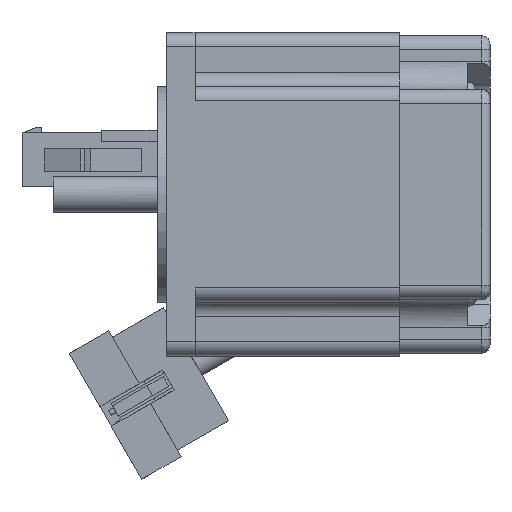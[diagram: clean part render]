
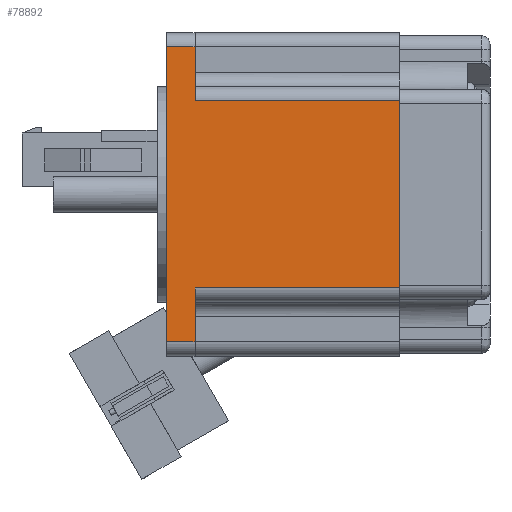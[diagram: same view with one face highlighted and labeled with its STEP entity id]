
A CAD part, front view. The second image highlights one B-rep face of the part: STEP entity #78892.
In plain terms, the highlighted planar face has unit normal (0, -1, 0).
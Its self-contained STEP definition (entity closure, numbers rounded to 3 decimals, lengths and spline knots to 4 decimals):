
#10076=LINE('',#124247,#20689);
#10077=LINE('',#124253,#20690);
#10091=LINE('',#124288,#20704);
#10098=LINE('',#124305,#20711);
#10117=LINE('',#124347,#20730);
#10118=LINE('',#124349,#20731);
#10119=LINE('',#124351,#20732);
#10120=LINE('',#124352,#20733);
#20689=VECTOR('',#100774,1.4173);
#20690=VECTOR('',#100779,1.4173);
#20704=VECTOR('',#100817,0.374);
#20711=VECTOR('',#100836,0.374);
#20730=VECTOR('',#100877,1.2992);
#20731=VECTOR('',#100878,0.1969);
#20732=VECTOR('',#100879,2.0472);
#20733=VECTOR('',#100880,0.1969);
#24940=PLANE('',#82955);
#28873=FACE_OUTER_BOUND('',#32841,.T.);
#32841=EDGE_LOOP('',(#73070,#73071,#73072,#73073,#73074,#73075,#73076,#73077));
#40721=VERTEX_POINT('',#124241);
#40723=VERTEX_POINT('',#124245);
#40724=VERTEX_POINT('',#124249);
#40726=VERTEX_POINT('',#124252);
#40735=VERTEX_POINT('',#124287);
#40739=VERTEX_POINT('',#124303);
#40752=VERTEX_POINT('',#124348);
#40753=VERTEX_POINT('',#124350);
#51610=EDGE_CURVE('',#40721,#40723,#10076,.T.);
#51612=EDGE_CURVE('',#40726,#40724,#10077,.T.);
#51631=EDGE_CURVE('',#40721,#40735,#10091,.T.);
#51641=EDGE_CURVE('',#40739,#40724,#10098,.T.);
#51664=EDGE_CURVE('',#40723,#40726,#10117,.T.);
#51665=EDGE_CURVE('',#40739,#40752,#10118,.T.);
#51666=EDGE_CURVE('',#40753,#40752,#10119,.T.);
#51667=EDGE_CURVE('',#40753,#40735,#10120,.T.);
#73070=ORIENTED_EDGE('',*,*,#51664,.T.);
#73071=ORIENTED_EDGE('',*,*,#51612,.T.);
#73072=ORIENTED_EDGE('',*,*,#51641,.F.);
#73073=ORIENTED_EDGE('',*,*,#51665,.T.);
#73074=ORIENTED_EDGE('',*,*,#51666,.F.);
#73075=ORIENTED_EDGE('',*,*,#51667,.T.);
#73076=ORIENTED_EDGE('',*,*,#51631,.F.);
#73077=ORIENTED_EDGE('',*,*,#51610,.T.);
#78892=ADVANCED_FACE('',(#28873),#24940,.F.);
#82955=AXIS2_PLACEMENT_3D('',#124346,#100875,#100876);
#100774=DIRECTION('',(1.,0.,0.));
#100779=DIRECTION('',(-1.,0.,0.));
#100817=DIRECTION('',(0.,0.,-1.));
#100836=DIRECTION('',(0.,0.,-1.));
#100875=DIRECTION('center_axis',(0.,1.,0.));
#100876=DIRECTION('ref_axis',(-1.,0.,0.));
#100877=DIRECTION('',(0.,0.,1.));
#100878=DIRECTION('',(-1.,0.,0.));
#100879=DIRECTION('',(0.,0.,1.));
#100880=DIRECTION('',(1.,0.,0.));
#124241=CARTESIAN_POINT('',(-1.4173,-1.0654,-0.7397));
#124245=CARTESIAN_POINT('',(0.,-1.0654,-0.7397));
#124247=CARTESIAN_POINT('',(-1.6142,-1.0654,-0.7397));
#124249=CARTESIAN_POINT('',(-1.4173,-1.0654,0.5596));
#124252=CARTESIAN_POINT('',(0.,-1.0654,0.5596));
#124253=CARTESIAN_POINT('',(-1.6142,-1.0654,0.5596));
#124287=CARTESIAN_POINT('',(-1.4173,-1.0654,-1.1137));
#124288=CARTESIAN_POINT('',(-1.4173,-1.0654,-0.8381));
#124303=CARTESIAN_POINT('',(-1.4173,-1.0654,0.9336));
#124305=CARTESIAN_POINT('',(-1.4173,-1.0654,0.9336));
#124346=CARTESIAN_POINT('Origin',(-1.6142,-1.0654,-1.2121));
#124347=CARTESIAN_POINT('',(0.,-1.0654,-1.2121));
#124348=CARTESIAN_POINT('',(-1.6142,-1.0654,0.9336));
#124349=CARTESIAN_POINT('',(-1.6142,-1.0654,0.9336));
#124350=CARTESIAN_POINT('',(-1.6142,-1.0654,-1.1137));
#124351=CARTESIAN_POINT('',(-1.6142,-1.0654,-1.2121));
#124352=CARTESIAN_POINT('',(-1.6142,-1.0654,-1.1137));
